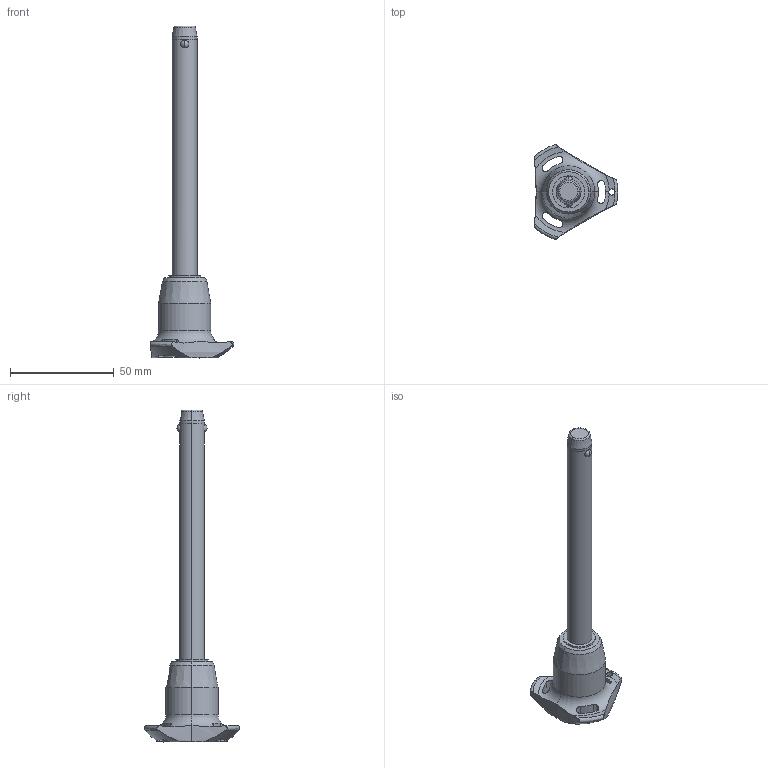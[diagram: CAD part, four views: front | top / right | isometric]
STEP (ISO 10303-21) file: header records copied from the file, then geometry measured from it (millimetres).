
FILE_DESCRIPTION (( 'STEP AP203' ), '1' );
FILE_NAME ('QR1736.M12-110-T.step', '2025-11-13T12:04:48', ( '' ), ( '' ), 'SwSTEP 2.0', 'SolidWorks 2019', '' );
FILE_SCHEMA (( 'CONFIG_CONTROL_DESIGN' ));
Length unit declared in the file: millimetre
Products named in the file (1): QR1736.M12-110-T
Bounding box: 40.5 x 45.88 x 160.3 mm (x, y, z)
Volume: 34214.7 mm3; surface area: 10420.2 mm2
Topology: 1 solids, 1 shells, 68 faces, 183 edges, 116 vertices
Faces by surface type: cylinder 32, cone 14, torus 11, sphere 6, plane 5
Entity records: 2915 total; most frequent: CARTESIAN_POINT 1162, ORIENTED_EDGE 366, DIRECTION 346, EDGE_CURVE 183, AXIS2_PLACEMENT_3D 154, VERTEX_POINT 116, CIRCLE 85, EDGE_LOOP 75
